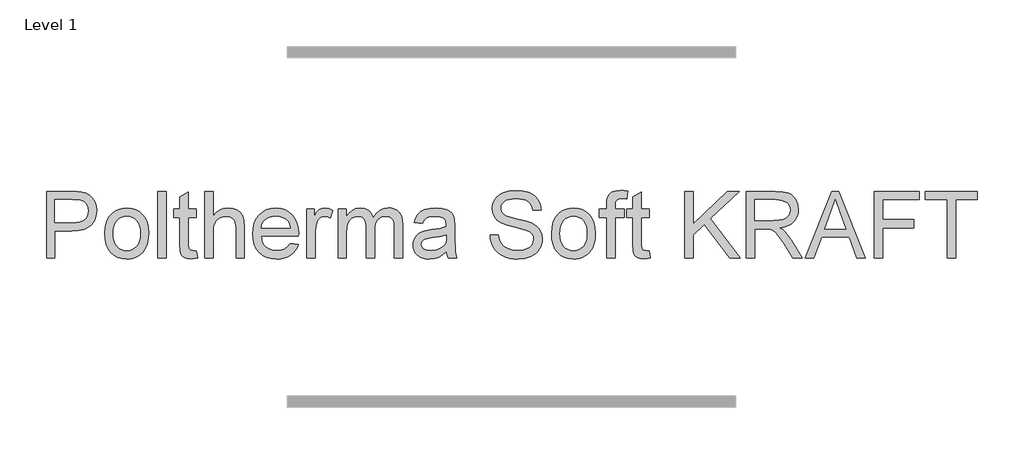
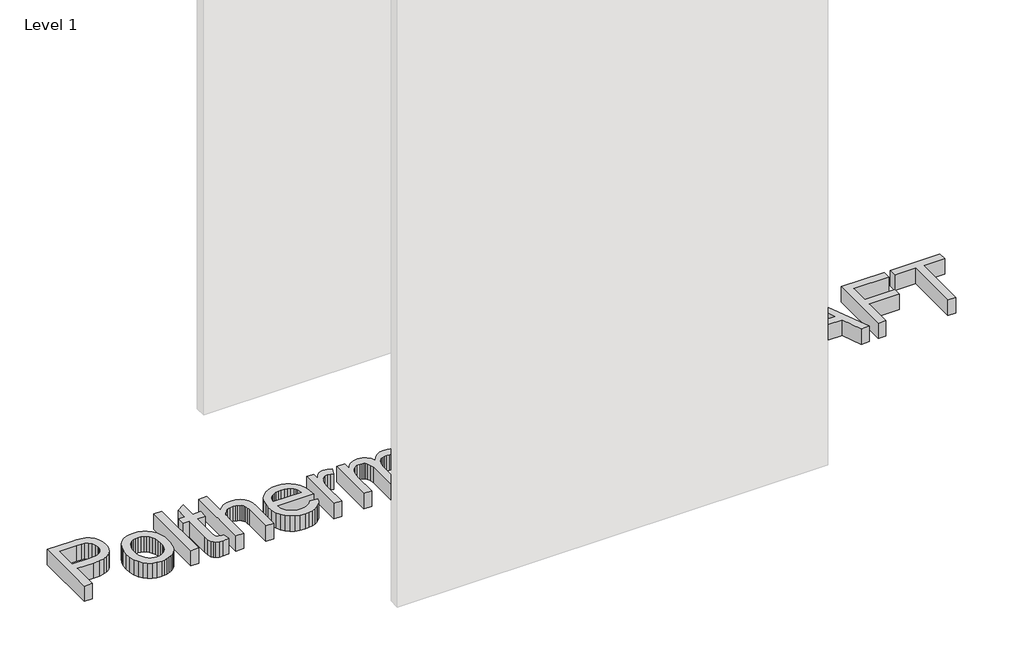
# One storey, part 6 of 27: 1 proxy.
"""IFC4 building model written with IfcOpenShell, lengths in millimetres."""

from ifc_helpers import new_model, si_unit, origin, origin_with_axes, place, context, project, spatial, polyline, outline, extrude, element, save

model = new_model("IFC4")

# Units and contexts
model_context = context("Model", 3, world=origin())
ifc_project = project(units=[si_unit("LENGTHUNIT", "METRE", prefix="MILLI")], contexts=[model_context])

# Site, building, storey
site = spatial("IfcSite", under=ifc_project)
building = spatial("IfcBuilding", under=site)
storey = spatial("IfcBuildingStorey", under=building, Name="Level 1", Elevation=0.0)

# Proxy
placement = place(None, origin())
element("IfcBuildingElementProxy", 1, Name="600mm Arial", ObjectType="600mm Arial", at=placement, inside=storey, context=model_context, shape_type="SweptSolid", body=[
    extrude(outline(polyline([(-14363.5224427, -38223.6365516), (-14363.5224427, -37632.8673208), (-14144.580135, -37632.8673208), (-14093.594558, -37634.2735708), (-14056.3109042, -37638.4923208), (-14016.953933, -37649.0031381), (-13984.5560965, -37666.1125131), (-13958.4683561, -37690.5956862), (-13938.0416734, -37723.2278977), (-13924.844558, -37761.7194843), (-13920.4455196, -37803.7807823), (-13923.415772, -37840.0458064), (-13932.3265292, -37873.4081862), (-13947.1777912, -37903.8679218), (-13967.969558, -37931.4250131), (-13996.5137287, -37954.2675612), (-14034.6222023, -37970.583667), (-14082.2949787, -37980.3733304), (-14139.532058, -37983.6365516), (-14289.6762888, -37983.6365516), (-14289.6762888, -38223.6365516), (-14363.5224427, -38223.6365516)]), holes=[polyline([(-14289.6762888, -37909.7903977), (-14135.205135, -37909.7903977), (-14099.688308, -37908.0956862), (-14069.7243657, -37903.0115516), (-14045.313308, -37894.5379939), (-14026.455135, -37882.6750131), (-14012.3836205, -37867.7381141), (-14002.3325388, -37850.0428016), (-13996.3018898, -37829.5890756), (-13994.2916734, -37806.3769362), (-13999.03326, -37773.2038593), (-14013.2580196, -37745.22309), (-14035.1991254, -37724.1653977), (-14063.0897504, -37711.7615516), (-14091.5753273, -37707.9754939), (-14136.9359042, -37706.7134746), (-14289.6762888, -37706.7134746), (-14289.6762888, -37909.7903977)])]), origin_with_axes(), (0.0, 0.0, 1.0), 150.0),
    extrude(outline(polyline([(-13846.5993657, -38006.7134746), (-13842.6059763, -37950.5265756), (-13830.625808, -37902.1101093), (-13810.6588609, -37861.4640756), (-13782.705135, -37828.5884746), (-13754.5621061, -37807.5758545), (-13723.4984042, -37792.56684), (-13689.5140292, -37783.5614314), (-13652.6089811, -37780.5596285), (-13611.868296, -37784.214977), (-13575.0308561, -37795.1810227), (-13542.0966614, -37813.4577655), (-13513.0657119, -37839.0452054), (-13489.3713008, -37871.0779578), (-13472.4467215, -37908.6906381), (-13462.2919739, -37951.8832463), (-13458.907058, -38000.6557823), (-13460.4034523, -38040.1840275), (-13464.892635, -38075.2591477), (-13472.3746061, -38105.8811429), (-13482.8493657, -38132.0500131), (-13496.1862047, -38154.653679), (-13512.2544138, -38174.5800612), (-13531.0539931, -38191.8291597), (-13552.5849427, -38206.4009746), (-13576.008921, -38217.9800011), (-13600.4875869, -38226.2507343), (-13626.0209403, -38231.2131742), (-13652.6089811, -38232.8673208), (-13693.9446181, -38229.2254939), (-13731.1246061, -38218.3000131), (-13764.1489451, -38200.0908785), (-13793.017635, -38174.59809), (-13816.4596422, -38142.25434), (-13833.203933, -38103.4923208), (-13843.2505076, -38058.3120323), (-13846.5993657, -38006.7134746)]), holes=[polyline([(-13772.7532119, -38006.5692439), (-13770.6167936, -38042.388054), (-13764.2075388, -38073.4021766), (-13753.5254475, -38099.6116117), (-13738.5705196, -38121.0163593), (-13720.3794138, -38137.6434626), (-13699.9887888, -38149.519965), (-13677.3986446, -38156.6458665), (-13652.6089811, -38159.021167), (-13627.9455196, -38156.6323448), (-13605.4455196, -38149.4658785), (-13585.1089811, -38137.5217679), (-13566.9359042, -38120.8000131), (-13551.9809763, -38099.1834266), (-13541.298885, -38072.5548208), (-13534.8896302, -38040.9141958), (-13532.7532119, -38004.2615516), (-13534.9031518, -37969.5785588), (-13541.3529715, -37939.3757343), (-13552.102671, -37913.653078), (-13567.1522504, -37892.41059), (-13585.3929354, -37875.7834867), (-13605.7159523, -37863.9069843), (-13628.1213008, -37856.7810828), (-13652.6089811, -37854.4057823), (-13677.3986446, -37856.7720684), (-13699.9887888, -37863.8709266), (-13720.3794138, -37875.7023569), (-13738.5705196, -37892.2663593), (-13753.5254475, -37913.6080059), (-13764.2075388, -37939.7723689), (-13770.6167936, -37970.7594482), (-13772.7532119, -38006.5692439)])]), origin_with_axes(), (0.0, 0.0, 1.0), 150.0),
    extrude(outline(polyline([(-13375.830135, -38223.6365516), (-13375.830135, -37632.8673208), (-13301.9839811, -37632.8673208), (-13301.9839811, -38223.6365516), (-13375.830135, -38223.6365516)])), origin_with_axes(), (0.0, 0.0, 1.0), 150.0),
    extrude(outline(polyline([(-13034.2916734, -38162.0500131), (-13025.0609042, -38225.8000131), (-13080.3012888, -38232.8673208), (-13115.7460004, -38229.802417), (-13142.1762888, -38220.6077054), (-13160.8541734, -38206.4370323), (-13173.0416734, -38188.4442439), (-13179.7484042, -38157.5428016), (-13181.9839811, -38104.646167), (-13181.9839811, -37863.6365516), (-13237.3685965, -37863.6365516), (-13237.3685965, -37789.7903977), (-13181.9839811, -37789.7903977), (-13181.9839811, -37684.3577054), (-13108.1378273, -37640.9442439), (-13108.1378273, -37789.7903977), (-13034.2916734, -37789.7903977), (-13034.2916734, -37863.6365516), (-13108.1378273, -37863.6365516), (-13108.1378273, -38102.4827054), (-13104.2435965, -38140.5596285), (-13091.6234042, -38154.0452054), (-13080.9683561, -38157.7771766), (-13066.455135, -38159.021167), (-13034.2916734, -38162.0500131)])), origin_with_axes(), (0.0, 0.0, 1.0), 150.0),
    extrude(outline(polyline([(-12960.4455196, -38223.6365516), (-12960.4455196, -37632.8673208), (-12886.5993657, -37632.8673208), (-12886.5993657, -37850.0788593), (-12859.4749667, -37819.6641958), (-12829.0152311, -37797.9394362), (-12795.220159, -37784.9045804), (-12758.0897504, -37780.5596285), (-12713.486385, -37785.301215), (-12675.157058, -37799.5259746), (-12644.9767696, -37822.1161189), (-12624.8205196, -37851.9538593), (-12613.4623465, -37892.9514554), (-12609.6762888, -37949.021167), (-12609.6762888, -38223.6365516), (-12683.5224427, -38223.6365516), (-12683.5224427, -37956.6653977), (-12684.9917936, -37931.7315035), (-12689.3998465, -37910.4394362), (-12696.7466013, -37892.7891958), (-12707.032058, -37878.7807823), (-12720.0128273, -37868.1167198), (-12735.4455196, -37860.4995323), (-12753.330135, -37855.9292198), (-12773.6666734, -37854.4057823), (-12804.8746061, -37858.5163593), (-12834.1714811, -37870.84809), (-12858.438308, -37890.2110708), (-12874.5560965, -37915.4153977), (-12883.5885484, -37948.9129939), (-12886.5993657, -37993.1557823), (-12886.5993657, -38223.6365516), (-12960.4455196, -38223.6365516)])), origin_with_axes(), (0.0, 0.0, 1.0), 150.0),
    extrude(outline(polyline([(-12204.3878273, -38094.4057823), (-12131.9839811, -38103.6365516), (-12143.0852431, -38132.6359506), (-12158.0717215, -38158.19184), (-12176.9434162, -38180.3042198), (-12199.7003273, -38198.97309), (-12226.1080797, -38213.801816), (-12255.9322984, -38224.3937631), (-12289.1729835, -38230.7489314), (-12325.830135, -38232.8673208), (-12371.6504475, -38229.2119722), (-12412.4767696, -38218.2459266), (-12448.3091013, -38199.9691838), (-12479.1474427, -38174.3817439), (-12503.9461205, -38142.1957463), (-12521.6594619, -38104.1233304), (-12532.2874667, -38060.1644963), (-12535.830135, -38010.3192439), (-12532.251409, -37958.7837871), (-12521.5152311, -37913.3601093), (-12503.6216013, -37874.0482102), (-12478.5705196, -37840.84809), (-12447.813308, -37814.4718881), (-12412.8012888, -37795.6317439), (-12373.5344619, -37784.3276573), (-12330.0128273, -37780.5596285), (-12287.8929354, -37784.3186429), (-12249.8024907, -37795.5956862), (-12215.7414931, -37814.3907583), (-12185.7099427, -37840.7038593), (-12161.1952191, -37873.8318641), (-12143.6847023, -37913.0716477), (-12133.1783922, -37958.4232102), (-12129.6762888, -38009.8865516), (-12130.1089811, -38029.7903977), (-12461.9839811, -38029.7903977), (-12457.7066374, -38059.2585468), (-12449.2015292, -38085.06684), (-12436.4686566, -38107.2152775), (-12419.5080196, -38125.7038593), (-12399.2571181, -38140.2801814), (-12376.6534523, -38150.69184), (-12351.697022, -38156.9388352), (-12324.3878273, -38159.021167), (-12285.0849427, -38155.1629939), (-12251.9839811, -38143.5884746), (-12225.0849427, -38123.5764554), (-12204.3878273, -38094.4057823)]), holes=[polyline([(-12461.9839811, -37955.9442439), (-12203.5224427, -37955.9442439), (-12213.5104234, -37916.9298208), (-12222.1011686, -37901.5872727), (-12233.0897504, -37889.021167), (-12253.2279715, -37873.8769362), (-12276.142635, -37863.0596285), (-12301.8337407, -37856.5692439), (-12330.3012888, -37854.4057823), (-12356.2673345, -37856.1320444), (-12380.078933, -37861.3108304), (-12401.7360845, -37869.9421405), (-12421.2387888, -37882.0259746), (-12437.6044739, -37897.0034386), (-12449.8505677, -37914.3156381), (-12457.9770701, -37933.9625732), (-12461.9839811, -37955.9442439)])]), origin_with_axes(), (0.0, 0.0, 1.0), 150.0),
    extrude(outline(polyline([(-12055.830135, -38223.6365516), (-12055.830135, -37789.7903977), (-11991.2147504, -37789.7903977), (-11991.2147504, -37853.97309), (-11967.344558, -37816.7615516), (-11945.3493657, -37794.8384746), (-11923.282058, -37784.12934), (-11899.1955196, -37780.5596285), (-11862.4166734, -37786.2567439), (-11825.0609042, -37803.34809), (-11849.7243657, -37869.5500131), (-11875.6859042, -37858.19184), (-11901.6474427, -37854.4057823), (-11923.6967215, -37858.0476093), (-11943.4022504, -37868.97309), (-11959.3217215, -37886.3528977), (-11970.0128273, -37909.3577054), (-11978.9911927, -37950.6077054), (-11981.9839811, -37995.6077054), (-11981.9839811, -38223.6365516), (-12055.830135, -38223.6365516)])), origin_with_axes(), (0.0, 0.0, 1.0), 150.0),
    extrude(outline(polyline([(-11778.907058, -38223.6365516), (-11778.907058, -37789.7903977), (-11705.0609042, -37789.7903977), (-11705.0609042, -37861.1846285), (-11682.8493657, -37828.3901573), (-11654.2916734, -37802.6990516), (-11620.361385, -37786.0944843), (-11582.032058, -37780.5596285), (-11540.9623465, -37786.2026573), (-11523.4833802, -37793.2564434), (-11508.0416734, -37803.1317439), (-11483.4503273, -37830.2290996), (-11467.3685965, -37866.3769362), (-11440.4515292, -37828.8318641), (-11409.7484042, -37802.0139554), (-11375.2592215, -37785.9232102), (-11336.9839811, -37780.5596285), (-11307.4211806, -37782.7906982), (-11281.4731638, -37789.4839073), (-11259.1399306, -37800.6392559), (-11240.4214811, -37816.2567439), (-11225.6243056, -37836.5166597), (-11215.0548946, -37861.599292), (-11208.7132479, -37891.5046405), (-11206.5993657, -37926.2327054), (-11206.5993657, -38223.6365516), (-11280.4455196, -38223.6365516), (-11280.4455196, -37957.9634746), (-11282.15826, -37921.130542), (-11287.2964811, -37896.3048208), (-11296.923885, -37879.3036189), (-11312.1041734, -37865.9442439), (-11331.6294138, -37857.2903977), (-11354.2916734, -37854.4057823), (-11375.2186566, -37856.2537391), (-11394.297683, -37861.7976093), (-11411.5287528, -37871.0373929), (-11426.9118657, -37883.97309), (-11439.5636085, -37900.9833064), (-11448.6005677, -37922.4466477), (-11454.0227431, -37948.3631141), (-11455.830135, -37978.7327054), (-11455.830135, -38223.6365516), (-11529.6762888, -38223.6365516), (-11529.6762888, -37949.7423208), (-11533.9491254, -37907.9875131), (-11546.767635, -37878.2038593), (-11556.6789931, -37867.7922006), (-11569.3217215, -37860.3553016), (-11584.6958201, -37855.8931621), (-11602.8012888, -37854.4057823), (-11631.250808, -37858.3721285), (-11657.4647504, -37870.271167), (-11679.0993657, -37889.8144362), (-11693.8109042, -37916.7134746), (-11702.2484042, -37954.0331862), (-11705.0609042, -38004.8384746), (-11705.0609042, -38223.6365516), (-11778.907058, -38223.6365516)])), origin_with_axes(), (0.0, 0.0, 1.0), 150.0),
    extrude(outline(polyline([(-10818.907058, -38168.2519362), (-10854.18951, -38198.50434), (-10890.517635, -38218.3000131), (-10928.72076, -38229.2254939), (-10969.6282119, -38232.8673208), (-11002.5083201, -38230.676816), (-11031.3409523, -38224.1053016), (-11056.1261085, -38213.1527775), (-11076.8637888, -38197.8192439), (-11093.2384883, -38179.0782583), (-11104.9347023, -38157.9033785), (-11111.9524306, -38134.2946045), (-11114.2916734, -38108.2519362), (-11110.7580196, -38077.6389554), (-11100.157058, -38049.8384746), (-11083.8048946, -38026.0403977), (-11063.017635, -38007.4346285), (-11038.5885484, -37993.3721285), (-11011.3109042, -37983.2038593), (-10947.4166734, -37972.09809), (-10871.9118657, -37960.4153977), (-10819.3397504, -37946.7134746), (-10818.907058, -37930.271167), (-10823.9911927, -37897.3144362), (-10830.3463609, -37885.1089073), (-10839.2435965, -37875.7519362), (-10854.6222023, -37866.4129939), (-10873.3541734, -37859.7423208), (-10920.8782119, -37854.4057823), (-10964.8685965, -37857.957465), (-10995.5897504, -37868.6125131), (-11016.5392696, -37888.318042), (-11031.2147504, -37919.021167), (-11105.0609042, -37909.7903977), (-11092.2423946, -37869.4057823), (-11073.1137888, -37837.6750131), (-11045.8902311, -37813.4081862), (-11008.7868657, -37795.4153977), (-10963.40826, -37784.2735708), (-10911.3589811, -37780.5596285), (-10861.4371061, -37783.8408785), (-10821.8637888, -37793.6846285), (-10792.0260484, -37808.4863112), (-10771.3109042, -37826.6413593), (-10757.5729234, -37849.0872727), (-10748.6666734, -37876.7615516), (-10745.0609042, -37941.3769362), (-10745.0609042, -38033.2519362), (-10741.3109042, -38161.5452054), (-10735.7580196, -38193.2579458), (-10726.5993657, -38223.6365516), (-10800.4455196, -38223.6365516), (-10812.2724427, -38197.9634746), (-10818.907058, -38168.2519362)]), holes=[polyline([(-10818.907058, -38020.5596285), (-10868.5224427, -38032.8553016), (-10938.0416734, -38043.2038593), (-11001.5753273, -38055.1750131), (-11018.1077792, -38063.3601093), (-11030.3493657, -38074.646167), (-11037.9214811, -38088.1678016), (-11040.4455196, -38103.0596285), (-11034.9467215, -38125.0187631), (-11018.4503273, -38143.0115516), (-10991.3169138, -38155.0187631), (-10953.907058, -38159.021167), (-10914.2435965, -38154.6040996), (-10879.1955196, -38141.3528977), (-10850.782058, -38121.8276573), (-10831.0224427, -38098.5884746), (-10822.2604234, -38074.646167), (-10819.3397504, -38041.47309), (-10818.907058, -38020.5596285)])]), origin_with_axes(), (0.0, 0.0, 1.0), 150.0),
    extrude(outline(polyline([(-10431.2147504, -38020.5596285), (-10357.3685965, -38020.5596285), (-10348.8950388, -38061.5391958), (-10333.5705196, -38094.4778977), (-10309.6642696, -38120.6197246), (-10275.4455196, -38141.208667), (-10233.6185965, -38154.568042), (-10186.8878273, -38159.021167), (-10145.7460004, -38155.6497727), (-10109.7243657, -38145.53559), (-10080.5356638, -38129.5259746), (-10059.892635, -38108.4682823), (-10047.6149907, -38084.2915996), (-10043.5224427, -38058.9250131), (-10046.5873465, -38034.207465), (-10055.782058, -38012.8432823), (-10074.4599427, -37994.6161189), (-10105.9743657, -37979.3096285), (-10213.4984042, -37951.1125131), (-10284.0813369, -37932.4526573), (-10329.2435965, -37914.6942439), (-10366.0044138, -37889.8504939), (-10392.0560965, -37859.7423208), (-10407.578933, -37825.0187631), (-10412.7532119, -37786.3288593), (-10411.1531518, -37764.3381742), (-10406.3529715, -37743.0776573), (-10398.352671, -37722.5473088), (-10387.1522504, -37702.7471285), (-10372.8779114, -37684.4839073), (-10355.6558561, -37668.5644362), (-10335.4860845, -37654.988715), (-10312.3685965, -37643.7567439), (-10260.4094619, -37628.6665996), (-10202.8974427, -37623.6365516), (-10140.5897504, -37628.9009746), (-10086.0705196, -37644.6942439), (-10062.2183561, -37656.458066), (-10041.2868657, -37670.69184), (-10023.2760484, -37687.395566), (-10008.1859042, -37706.5692439), (-9996.1336205, -37727.6539795), (-9987.236385, -37750.0908785), (-9981.4941975, -37773.879941), (-9978.907058, -37799.021167), (-10052.7532119, -37799.021167), (-10057.6931157, -37775.457465), (-10066.3109042, -37754.958667), (-10078.6065773, -37737.5247727), (-10094.580135, -37723.1557823), (-10114.5290532, -37711.9238112), (-10138.750808, -37703.9009746), (-10167.2453994, -37699.0872727), (-10200.0128273, -37697.4827054), (-10233.8259282, -37699.0692439), (-10262.7171542, -37703.8288593), (-10286.6865052, -37711.7615516), (-10305.7339811, -37722.8673208), (-10320.2472023, -37736.2176814), (-10330.6137888, -37750.8841477), (-10336.8337407, -37766.8667198), (-10338.907058, -37784.1653977), (-10333.0296542, -37812.5428016), (-10315.3974427, -37835.3673208), (-10299.2075388, -37845.5175612), (-10273.7147504, -37855.7759746), (-10194.8205196, -37876.6173208), (-10113.4022504, -37896.4129939), (-10064.1474427, -37913.6846285), (-10022.0500869, -37940.4754939), (-10005.774546, -37956.223691), (-9992.6810965, -37973.5403977), (-9982.6164931, -37992.3354698), (-9975.4274907, -38012.5187631), (-9969.6762888, -38057.0500131), (-9971.3304354, -38080.1494722), (-9976.2928754, -38102.5728496), (-9984.5636085, -38124.3201453), (-9996.142635, -38145.3913593), (-10010.8271302, -38164.9706862), (-10028.4142696, -38182.2423208), (-10048.9040532, -38197.2062631), (-10072.2964811, -38209.8625131), (-10097.9109643, -38219.9271165), (-10125.0669138, -38227.1161189), (-10184.0032119, -38232.8673208), (-10221.7781518, -38231.31684), (-10256.3529715, -38226.6653977), (-10287.727671, -38218.9129939), (-10315.9022504, -38208.0596285), (-10341.0479835, -38194.0872727), (-10363.3361446, -38176.9778977), (-10382.7667335, -38156.7315035), (-10399.3397504, -38133.34809), (-10412.6901109, -38107.5848689), (-10422.4527311, -38080.1990516), (-10428.6276109, -38051.1906381), (-10431.2147504, -38020.5596285)])), origin_with_axes(), (0.0, 0.0, 1.0), 150.0),
    extrude(outline(polyline([(-9886.5993657, -38006.7134746), (-9882.6059763, -37950.5265756), (-9870.625808, -37902.1101093), (-9850.6588609, -37861.4640756), (-9822.705135, -37828.5884746), (-9794.5621061, -37807.5758545), (-9763.4984042, -37792.56684), (-9729.5140292, -37783.5614314), (-9692.6089811, -37780.5596285), (-9651.868296, -37784.214977), (-9615.0308561, -37795.1810227), (-9582.0966614, -37813.4577655), (-9553.0657119, -37839.0452054), (-9529.3713008, -37871.0779578), (-9512.4467215, -37908.6906381), (-9502.2919739, -37951.8832463), (-9498.907058, -38000.6557823), (-9500.4034523, -38040.1840275), (-9504.892635, -38075.2591477), (-9512.3746061, -38105.8811429), (-9522.8493657, -38132.0500131), (-9536.1862047, -38154.653679), (-9552.2544138, -38174.5800612), (-9571.0539931, -38191.8291597), (-9592.5849427, -38206.4009746), (-9616.008921, -38217.9800011), (-9640.4875869, -38226.2507343), (-9666.0209403, -38231.2131742), (-9692.6089811, -38232.8673208), (-9733.9446181, -38229.2254939), (-9771.1246061, -38218.3000131), (-9804.1489451, -38200.0908785), (-9833.017635, -38174.59809), (-9856.4596422, -38142.25434), (-9873.203933, -38103.4923208), (-9883.2505076, -38058.3120323), (-9886.5993657, -38006.7134746)]), holes=[polyline([(-9812.7532119, -38006.5692439), (-9810.6167936, -38042.388054), (-9804.2075388, -38073.4021766), (-9793.5254475, -38099.6116117), (-9778.5705196, -38121.0163593), (-9760.3794138, -38137.6434626), (-9739.9887888, -38149.519965), (-9717.3986446, -38156.6458665), (-9692.6089811, -38159.021167), (-9667.9455196, -38156.6323448), (-9645.4455196, -38149.4658785), (-9625.1089811, -38137.5217679), (-9606.9359042, -38120.8000131), (-9591.9809763, -38099.1834266), (-9581.298885, -38072.5548208), (-9574.8896302, -38040.9141958), (-9572.7532119, -38004.2615516), (-9574.9031518, -37969.5785588), (-9581.3529715, -37939.3757343), (-9592.102671, -37913.653078), (-9607.1522504, -37892.41059), (-9625.3929354, -37875.7834867), (-9645.7159523, -37863.9069843), (-9668.1213008, -37856.7810828), (-9692.6089811, -37854.4057823), (-9717.3986446, -37856.7720684), (-9739.9887888, -37863.8709266), (-9760.3794138, -37875.7023569), (-9778.5705196, -37892.2663593), (-9793.5254475, -37913.6080059), (-9804.2075388, -37939.7723689), (-9810.6167936, -37970.7594482), (-9812.7532119, -38006.5692439)])]), origin_with_axes(), (0.0, 0.0, 1.0), 150.0),
    extrude(outline(polyline([(-9397.3685965, -38223.6365516), (-9397.3685965, -37863.6365516), (-9461.9839811, -37863.6365516), (-9461.9839811, -37789.7903977), (-9397.3685965, -37789.7903977), (-9397.3685965, -37746.0884746), (-9395.4214811, -37709.9226093), (-9389.580135, -37684.5019362), (-9374.7243657, -37659.9466477), (-9351.7916734, -37640.5115516), (-9319.7003273, -37627.8553016), (-9277.3685965, -37623.6365516), (-9245.313308, -37625.6557823), (-9210.0128273, -37631.7134746), (-9220.830135, -37700.9442439), (-9263.3782119, -37697.4827054), (-9291.4491254, -37700.5476093), (-9309.892635, -37709.7423208), (-9320.1149907, -37727.302417), (-9323.5224427, -37755.4634746), (-9323.5224427, -37789.7903977), (-9240.4455196, -37789.7903977), (-9240.4455196, -37863.6365516), (-9323.5224427, -37863.6365516), (-9323.5224427, -38223.6365516), (-9397.3685965, -38223.6365516)])), origin_with_axes(), (0.0, 0.0, 1.0), 150.0),
    extrude(outline(polyline([(-9018.907058, -38162.0500131), (-9009.6762888, -38225.8000131), (-9064.9166734, -38232.8673208), (-9100.361385, -38229.802417), (-9126.7916734, -38220.6077054), (-9145.469558, -38206.4370323), (-9157.657058, -38188.4442439), (-9164.3637888, -38157.5428016), (-9166.5993657, -38104.646167), (-9166.5993657, -37863.6365516), (-9221.9839811, -37863.6365516), (-9221.9839811, -37789.7903977), (-9166.5993657, -37789.7903977), (-9166.5993657, -37684.3577054), (-9092.7532119, -37640.9442439), (-9092.7532119, -37789.7903977), (-9018.907058, -37789.7903977), (-9018.907058, -37863.6365516), (-9092.7532119, -37863.6365516), (-9092.7532119, -38102.4827054), (-9088.8589811, -38140.5596285), (-9076.2387888, -38154.0452054), (-9065.5837407, -38157.7771766), (-9051.0705196, -38159.021167), (-9018.907058, -38162.0500131)])), origin_with_axes(), (0.0, 0.0, 1.0), 150.0),
    extrude(outline(polyline([(-8705.0609042, -38223.6365516), (-8705.0609042, -37632.8673208), (-8631.2147504, -37632.8673208), (-8631.2147504, -37922.0500131), (-8328.330135, -37632.8673208), (-8225.0609042, -37632.8673208), (-8479.3397504, -37875.7519362), (-8215.830135, -38223.6365516), (-8306.1185965, -38223.6365516), (-8531.6955196, -37925.6557823), (-8631.2147504, -38020.5596285), (-8631.2147504, -38223.6365516), (-8705.0609042, -38223.6365516)])), origin_with_axes(), (0.0, 0.0, 1.0), 150.0),
    extrude(outline(polyline([(-8160.4455196, -38223.6365516), (-8160.4455196, -37632.8673208), (-7905.8782119, -37632.8673208), (-7837.4587407, -37636.8516958), (-7787.6810965, -37648.8048208), (-7768.4713609, -37658.3060227), (-7751.298885, -37670.8721285), (-7736.1636686, -37686.5031381), (-7723.0657119, -37705.1990516), (-7712.4963008, -37725.9547607), (-7704.9467215, -37747.7651573), (-7698.907058, -37794.5500131), (-7701.4085604, -37824.8925612), (-7708.9130677, -37852.7471285), (-7721.4205797, -37878.113715), (-7738.9310965, -37900.9923208), (-7761.6699787, -37920.6527775), (-7789.8625869, -37936.364917), (-7823.508921, -37948.1287391), (-7862.6089811, -37955.9442439), (-7838.2700388, -37971.8456862), (-7820.6378273, -37987.5307823), (-7760.782058, -38063.5403977), (-7662.2724427, -38223.6365516), (-7748.0897504, -38223.6365516), (-7824.9647504, -38101.1846285), (-7880.4935965, -38020.1269362), (-7901.1366254, -37996.4911189), (-7919.5080196, -37981.833667), (-7954.6282119, -37967.771167), (-7997.4647504, -37965.1750131), (-8086.5993657, -37965.1750131), (-8086.5993657, -38223.6365516), (-8160.4455196, -38223.6365516)]), holes=[polyline([(-8086.5993657, -37891.3288593), (-7921.3109042, -37891.3288593), (-7873.8409523, -37888.7146766), (-7837.0080196, -37880.8721285), (-7809.2796542, -37867.2783785), (-7789.1234042, -37847.41059), (-7776.84576, -37823.3781381), (-7772.7532119, -37797.2903977), (-7774.7048345, -37778.4051814), (-7780.5597023, -37761.2687631), (-7790.3178153, -37745.8811429), (-7803.9791734, -37732.2423208), (-7821.8592816, -37721.0734506), (-7844.2736446, -37713.0956862), (-7871.2222624, -37708.3090275), (-7902.705135, -37706.7134746), (-8086.5993657, -37706.7134746), (-8086.5993657, -37891.3288593)])]), origin_with_axes(), (0.0, 0.0, 1.0), 150.0),
    extrude(outline(polyline([(-7638.4743657, -38223.6365516), (-7402.657058, -37632.8673208), (-7339.7724427, -37632.8673208), (-7103.955135, -38223.6365516), (-7181.9839811, -38223.6365516), (-7249.6282119, -38039.021167), (-7492.9455196, -38039.021167), (-7560.4455196, -38223.6365516), (-7638.4743657, -38223.6365516)]), holes=[polyline([(-7465.830135, -37965.1750131), (-7276.5993657, -37965.1750131), (-7329.8205196, -37819.9346285), (-7371.2147504, -37706.7134746), (-7407.9935965, -37807.2423208), (-7465.830135, -37965.1750131)])]), origin_with_axes(), (0.0, 0.0, 1.0), 150.0),
    extrude(outline(polyline([(-7025.0609042, -38223.6365516), (-7025.0609042, -37632.8673208), (-6628.1378273, -37632.8673208), (-6628.1378273, -37706.7134746), (-6951.2147504, -37706.7134746), (-6951.2147504, -37882.09809), (-6674.2916734, -37882.09809), (-6674.2916734, -37955.9442439), (-6951.2147504, -37955.9442439), (-6951.2147504, -38223.6365516), (-7025.0609042, -38223.6365516)])), origin_with_axes(), (0.0, 0.0, 1.0), 150.0),
    extrude(outline(polyline([(-6378.907058, -38223.6365516), (-6378.907058, -37706.7134746), (-6572.7532119, -37706.7134746), (-6572.7532119, -37632.8673208), (-6111.2147504, -37632.8673208), (-6111.2147504, -37706.7134746), (-6305.0609042, -37706.7134746), (-6305.0609042, -38223.6365516), (-6378.907058, -38223.6365516)])), origin_with_axes(), (0.0, 0.0, 1.0), 150.0),
])

save(model, "model.ifc")
